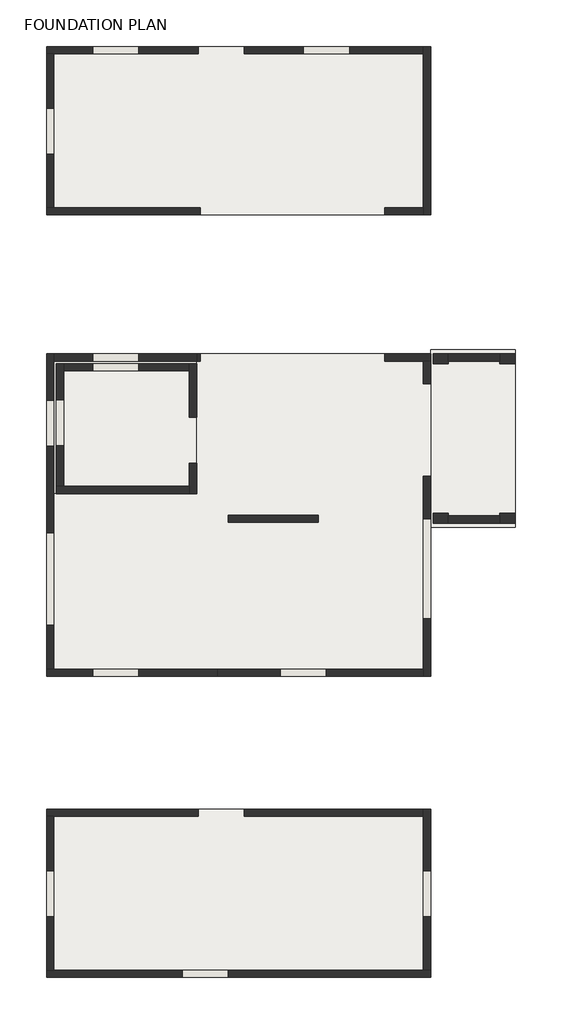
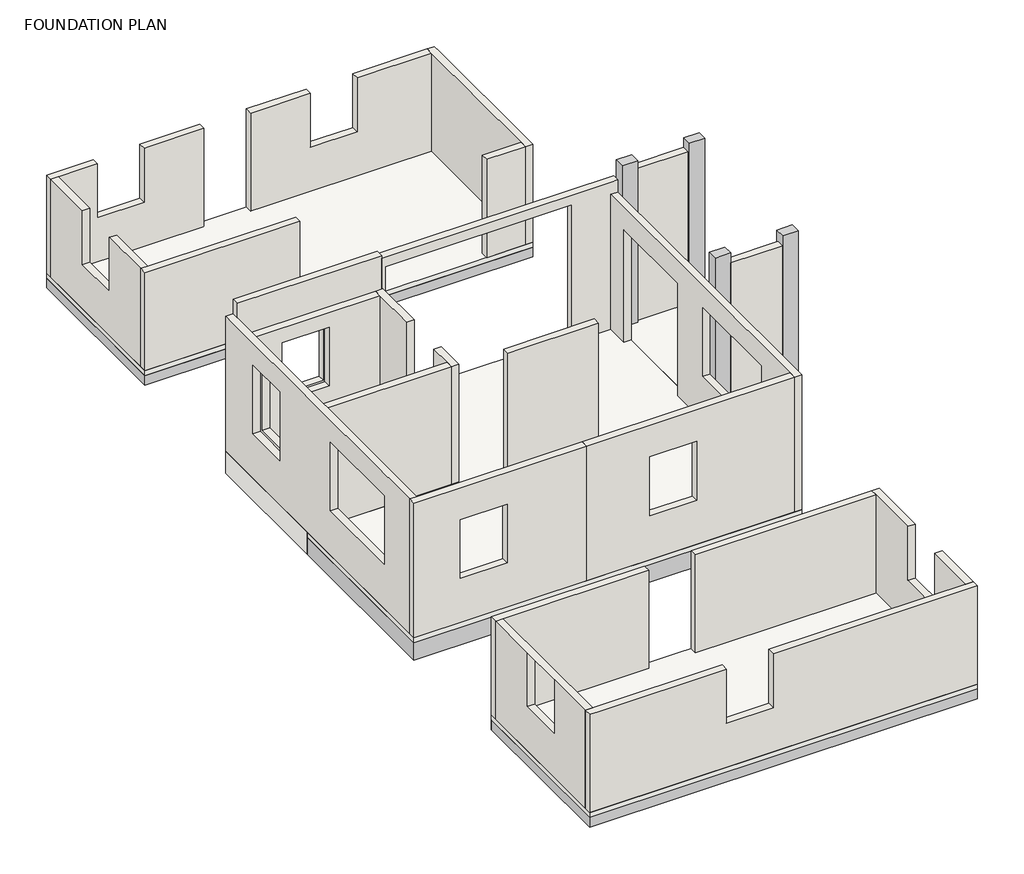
# One storey: 23 walls, 5 slabs, 4 columns, 4 proxies, 1 footing.
"""IFC4 building model written with IfcOpenShell, lengths in millimetres."""

from ifc_helpers import new_model, si_unit, frame, origin, origin_with_axes, place, context, project, spatial, polyline, outline, extrude, faceted_brep, element, save

model = new_model("IFC4")

# Units and contexts
model_context = context("Model", 3, world=origin())
ifc_project = project(units=[si_unit("LENGTHUNIT", "METRE", prefix="MILLI")], contexts=[model_context])

# Site, building, storey
site = spatial("IfcSite", under=ifc_project)
building = spatial("IfcBuilding", under=site)
storey = spatial("IfcBuildingStorey", under=building, Name="FOUNDATION PLAN", Elevation=0.0)

# Proxies
placement = place(None, origin())
element("IfcBuildingElementProxy", 1, Name="Thickened 24\" x 12\"", ObjectType="Thickened 24\" x 12\"", at=placement, inside=storey, context=model_context, shape_type="Brep", body=[
    faceted_brep([(7305.675, -2924.2155437, -304.8), (7610.475, -2619.4155437, -304.8), (7610.475, -2619.4155437, -101.6), (7102.475, -3127.4155437, -101.6), (9.525, -2619.4155437, -304.8), (314.325, -2924.2155437, -304.8), (517.525, -3127.4155437, -101.6), (9.525, -2619.4155437, -101.6)], [[[0, 1, 2, 3]], [[4, 5, 6, 7]], [[1, 4, 7, 2]], [[5, 0, 3, 6]], [[1, 0, 5, 4]], [[3, 2, 7, 6]]]),
])
element("IfcBuildingElementProxy", 2, Name="Thickened 24\" x 12\"", ObjectType="Thickened 24\" x 12\"", at=placement, inside=storey, context=model_context, shape_type="Brep", body=[
    faceted_brep([(314.325, -2924.2155437, -304.8), (9.525, -2619.4155437, -304.8), (9.525, -2619.4155437, -101.6), (517.525, -3127.4155437, -101.6), (9.525, -5953.1655549, -304.8), (9.525, -5953.1655549, -101.6), (314.325, -5648.3655549, -304.8), (517.525, -5445.1655549, -101.6), (7610.475, -5953.1655549, -101.6), (7610.475, -2619.4155437, -101.6), (7102.475, -3127.4155437, -101.6), (7102.475, -5445.1655549, -101.6), (7610.475, -5953.1655549, -304.8), (7305.675, -5648.3655549, -304.8), (7610.475, -2619.4155437, -304.8), (7305.675, -2924.2155437, -304.8)], [[[0, 1, 2, 3]], [[1, 4, 5, 2]], [[6, 0, 3, 7]], [[1, 0, 6, 4]], [[3, 2, 5, 8, 9, 10, 11, 7]], [[4, 12, 8, 5]], [[13, 6, 7, 11]], [[4, 6, 13, 12]], [[14, 15, 10, 9]], [[12, 14, 9, 8]], [[15, 13, 11, 10]], [[12, 13, 15, 14]]]),
    faceted_brep([(7610.475, 12474.1132667, -304.8), (9.525, 12474.1132667, -304.8), (9.525, 12474.1132667, -101.6), (7610.475, 12474.1132667, -101.6), (314.325, 12169.3132667, -304.8), (7305.675, 12169.3132667, -304.8), (7102.475, 11966.1132667, -101.6), (517.525, 11966.1132667, -101.6), (9.525, 9140.3632667, -101.6), (7610.475, 9140.3632667, -101.6), (7102.475, 9648.3632667, -101.6), (517.525, 9648.3632667, -101.6), (9.525, 9140.3632667, -304.8), (7610.475, 9140.3632667, -304.8), (7305.675, 9445.1632667, -304.8), (314.325, 9445.1632667, -304.8)], [[[0, 1, 2, 3]], [[4, 5, 6, 7]], [[0, 5, 4, 1]], [[3, 2, 8, 9], [7, 6, 10, 11]], [[12, 13, 9, 8]], [[14, 15, 11, 10]], [[12, 15, 14, 13]], [[13, 0, 3, 9]], [[5, 14, 10, 6]], [[5, 0, 13, 14]], [[1, 12, 8, 2]], [[15, 4, 7, 11]], [[15, 12, 1, 4]]]),
])
element("IfcBuildingElementProxy", 3, Name="Thickened 36\" x 18\"", ObjectType="Thickened 36\" x 18\"", at=placement, inside=storey, context=model_context, shape_type="Brep", body=[
    faceted_brep([(2978.15, 6391.2749888, -457.2), (3435.35, 5934.0749888, -457.2), (3790.95, 5578.4749888, -101.6), (2978.15, 6391.2749888, -101.6), (7610.475, 6391.2749888, -457.2), (7610.475, 6391.2749888, -101.6), (7153.275, 5934.0749888, -457.2), (6797.675, 5578.4749888, -101.6), (6797.675, 3048.0, -101.6), (6797.675, 822.325, -101.6), (822.325, 822.325, -101.6), (822.325, 2813.05, -101.6), (9.525, 3625.85, -101.6), (9.525, 9.525, -101.6), (7610.475, 9.525, -101.6), (7610.475, 3048.0, -101.6), (466.725, 3168.65, -457.2), (9.525, 3625.85, -457.2), (9.525, 9.525, -457.2), (466.725, 466.725, -457.2), (7610.475, 9.525, -457.2), (7153.275, 466.725, -457.2), (7610.475, 3048.0, -457.2), (7153.275, 3048.0, -457.2)], [[[0, 1, 2, 3]], [[4, 0, 3, 5]], [[1, 6, 7, 2]], [[4, 6, 1, 0]], [[3, 2, 7, 8, 9, 10, 11, 12, 13, 14, 15, 5]], [[16, 17, 12, 11]], [[17, 18, 13, 12]], [[19, 16, 11, 10]], [[17, 16, 19, 18]], [[18, 20, 14, 13]], [[21, 19, 10, 9]], [[18, 19, 21, 20]], [[20, 22, 15, 14]], [[23, 21, 9, 8]], [[20, 21, 23, 22]], [[22, 4, 5, 15]], [[6, 23, 8, 7]], [[6, 4, 22, 23]]]),
])
element("IfcBuildingElementProxy", 4, Name="Thickened 36\" x 18\"", ObjectType="Thickened 36\" x 18\"", at=placement, inside=storey, context=model_context, shape_type="Brep", body=[
    faceted_brep([(9.525, 3625.85, -457.2), (466.725, 3168.65, -457.2), (822.325, 2813.05, -101.6), (9.525, 3625.85, -101.6), (2978.15, 3625.85, -457.2), (2978.15, 3625.85, -101.6), (3435.35, 3168.65, -457.2), (3790.95, 2813.05, -101.6), (3790.95, 5578.4749888, -101.6), (2978.15, 6391.2749888, -101.6), (3435.35, 5934.0749888, -457.2), (2978.15, 6391.2749888, -457.2)], [[[0, 1, 2, 3]], [[4, 0, 3, 5]], [[1, 6, 7, 2]], [[4, 6, 1, 0]], [[3, 2, 7, 8, 9, 5]], [[10, 11, 9, 8]], [[11, 4, 5, 9]], [[6, 10, 8, 7]], [[6, 4, 11, 10]]]),
])

# Columns
element("IfcColumn", 5, ObjectType="Concrete-Rectangular-Column : 8 x 12", at=placement, inside=storey, context=model_context, shape_type="Brep", body=[
    faceted_brep([(7661.275, 6391.275, 3352.8), (7661.275, 6197.6, 3352.8), (7966.075, 6197.6, 3352.8), (7966.075, 6223.0, 3352.8), (7966.075, 6365.875, 3352.8), (7966.075, 6391.275, 3352.8), (7661.275, 6391.275, 0.0), (7966.075, 6391.275, 0.0), (7966.075, 6248.4, 0.0), (7966.075, 6197.6, 0.0), (7661.275, 6197.6, 0.0), (7966.075, 6391.275, 3149.6)], [[[0, 1, 2, 3, 4, 5]], [[6, 7, 8, 9, 10]], [[1, 0, 6, 10]], [[2, 1, 10, 9]], [[5, 4, 3, 2, 9, 8, 7, 11]], [[0, 5, 11, 7, 6]]]),
])
element("IfcColumn", 6, ObjectType="Concrete-Rectangular-Column : 8 x 12", at=placement, inside=storey, context=model_context, shape_type="Brep", body=[
    faceted_brep([(8982.075, 6391.275, 3352.8), (8982.075, 6365.875, 3352.8), (8982.075, 6223.0, 3352.8), (8982.075, 6197.6, 3352.8), (9286.875, 6197.6, 3352.8), (9286.875, 6391.275, 3352.8), (8982.075, 6391.275, 0.0), (9286.875, 6391.275, 0.0), (9286.875, 6197.6, 0.0), (8982.075, 6197.6, 0.0), (8982.075, 6248.4, 0.0), (8982.075, 6391.275, 3149.6)], [[[0, 1, 2, 3, 4, 5]], [[6, 7, 8, 9, 10]], [[3, 2, 1, 0, 11, 6, 10, 9]], [[4, 3, 9, 8]], [[5, 4, 8, 7]], [[0, 5, 7, 6, 11]]]),
])
element("IfcColumn", 7, ObjectType="Concrete-Rectangular-Column : 8 x 12", at=placement, inside=storey, context=model_context, shape_type="Brep", body=[
    faceted_brep([(7661.275, 3232.15, 3352.8), (7661.275, 3038.475, 3352.8), (7966.075, 3038.475, 3352.8), (7966.075, 3232.15, 3352.8), (7661.275, 3232.15, 0.0), (7966.075, 3232.15, 0.0), (7966.075, 3181.35, 0.0), (7966.075, 3038.475, 0.0), (7661.275, 3038.475, 0.0), (7966.075, 3038.475, 3149.6)], [[[0, 1, 2, 3]], [[4, 5, 6, 7, 8]], [[1, 0, 4, 8]], [[2, 1, 8, 7, 9]], [[3, 2, 9, 7, 6, 5]], [[0, 3, 5, 4]]]),
])
element("IfcColumn", 8, ObjectType="Concrete-Rectangular-Column : 8 x 12", at=placement, inside=storey, context=model_context, shape_type="Brep", body=[
    faceted_brep([(8982.075, 3232.15, 3352.8), (8982.075, 3038.475, 3352.8), (9286.875, 3038.475, 3352.8), (9286.875, 3232.15, 3352.8), (8982.075, 3232.15, 0.0), (9286.875, 3232.15, 0.0), (9286.875, 3038.475, 0.0), (8982.075, 3038.475, 0.0), (8982.075, 3181.35, 0.0), (8982.075, 3038.475, 3149.6)], [[[0, 1, 2, 3]], [[4, 5, 6, 7, 8]], [[1, 0, 4, 8, 7, 9]], [[2, 1, 9, 7, 6]], [[3, 2, 6, 5]], [[0, 3, 5, 4]]]),
])

# Footing
element("IfcFooting", 9, ObjectType="Bearing Footing - 36\" x 18\"", at=placement, inside=storey, context=model_context, shape_type="SweptSolid", body=[
    extrude(outline(polyline([(3302.0, 2667.0), (3302.0, 3581.4), (5689.6, 3581.4), (5689.6, 2667.0), (3302.0, 2667.0)])), frame((0.0, 0.0, -457.2), z_axis=(0.0, 0.0, 1.0), x_axis=(1.0, 0.0, 0.0)), (0.0, 0.0, 1.0), 457.2),
])

# Slabs
element("IfcSlab", 10, ObjectType="18\" Foundation Slab", at=placement, inside=storey, context=model_context, shape_type="SweptSolid", body=[
    extrude(outline(polyline([(9286.875, 6467.475), (9286.875, 2962.275), (7610.475, 2962.275), (7610.475, 6467.475), (9286.875, 6467.475)])), frame((0.0, 0.0, -457.2), z_axis=(0.0, 0.0, 1.0), x_axis=(1.0, 0.0, 0.0)), (0.0, 0.0, 1.0), 457.2),
])
element("IfcSlab", 11, ObjectType="18\" Foundation Slab", at=placement, inside=storey, context=model_context, shape_type="SweptSolid", body=[
    extrude(outline(polyline([(2978.15, 6391.2749888), (2978.15, 3625.85), (9.525, 3625.85), (9.525, 6391.2749888), (2978.15, 6391.2749888)])), frame((0.0, 0.0, -457.2), z_axis=(0.0, 0.0, 1.0), x_axis=(1.0, 0.0, 0.0)), (0.0, 0.0, 1.0), 457.2),
])
element("IfcSlab", 12, ObjectType="4\" Concrete", at=placement, inside=storey, context=model_context, shape_type="SweptSolid", body=[
    extrude(outline(polyline([(7610.475, 6391.2749888), (7610.475, 3048.0), (7610.475, 9.525), (9.525, 9.525), (9.525, 3625.85), (2978.15, 3625.85), (2978.15, 6391.2749888), (7610.475, 6391.2749888)])), frame((0.0, 0.0, -101.6), z_axis=(0.0, 0.0, 1.0), x_axis=(1.0, 0.0, 0.0)), (0.0, 0.0, 1.0), 101.6),
])
element("IfcSlab", 13, ObjectType="4\" Concrete", at=placement, inside=storey, context=model_context, shape_type="SweptSolid", body=[
    extrude(outline(polyline([(7610.475, -2619.4155437), (7610.475, -5953.1655549), (9.525, -5953.1655549), (9.525, -2619.4155437), (7610.475, -2619.4155437)])), frame((0.0, 0.0, -101.6), z_axis=(0.0, 0.0, 1.0), x_axis=(1.0, 0.0, 0.0)), (0.0, 0.0, 1.0), 101.6),
])
element("IfcSlab", 14, ObjectType="4\" Concrete", at=placement, inside=storey, context=model_context, shape_type="SweptSolid", body=[
    extrude(outline(polyline([(7610.475, 12474.1132667), (7610.475, 9140.3632667), (9.525, 9140.3632667), (9.525, 12474.1132667), (7610.475, 12474.1132667)])), frame((0.0, 0.0, -101.6), z_axis=(0.0, 0.0, 1.0), x_axis=(1.0, 0.0, 0.0)), (0.0, 0.0, 1.0), 101.6),
])

# Walls
element("IfcWall", 15, ObjectType="Generic - 6\" Masonry", at=placement, inside=storey, context=model_context, shape_type="Brep", body=[
    faceted_brep([(7467.6, 9.525, 0.0), (7467.6, 9.525, 2794.0), (7467.6, 152.4, 2794.0), (7467.6, 3052.7625, 2794.0), (7467.6, 3195.6375, 2794.0), (7467.6, 6248.4, 2794.0), (7467.6, 6248.4, 0.0), (7467.6, 5800.8868796, 0.0), (7467.6, 5800.8868796, 2336.91527), (7467.6, 3971.9337441, 2336.91527), (7467.6, 3971.9337441, 0.0), (7467.6, 152.4, 0.0), (7467.6, 3128.9625, 2336.8), (7467.6, 1143.0, 2336.8), (7467.6, 1143.0, 914.4), (7467.6, 3128.9625, 914.4), (7610.475, 9.525, 2794.0), (7610.475, 9.525, 0.0), (7610.475, 3971.9337441, 0.0), (7610.475, 3971.9337441, 2336.91527), (7610.475, 5800.8868796, 2336.91527), (7610.475, 5800.8868796, 0.0), (7610.475, 6248.4, 0.0), (7610.475, 6248.4, 2794.0), (7610.475, 3195.6375, 2794.0), (7610.475, 3052.7625, 2794.0), (7610.475, 1143.0, 2336.8), (7610.475, 3128.9625, 2336.8), (7610.475, 3128.9625, 914.4), (7610.475, 1143.0, 914.4)], [[[0, 1, 2, 3, 4, 5, 6, 7, 8, 9, 10, 11], [12, 13, 14, 15]], [[16, 17, 18, 19, 20, 21, 22, 23, 24, 25], [26, 27, 28, 29]], [[1, 0, 17, 16]], [[8, 20, 19, 9]], [[20, 8, 7, 21]], [[9, 19, 18, 10]], [[12, 27, 26, 13]], [[14, 29, 28, 15]], [[27, 12, 15, 28]], [[13, 26, 29, 14]], [[6, 5, 23, 22]], [[7, 6, 22, 21]], [[0, 11, 10, 18, 17]], [[5, 4, 3, 2, 1, 16, 25, 24, 23]]]),
])
element("IfcWall", 16, ObjectType="Generic - 6\" Masonry", at=placement, inside=storey, context=model_context, shape_type="Brep", body=[
    faceted_brep([(3387.725, 152.4, 0.0), (152.4, 152.4, 0.0), (9.525, 152.4, 0.0), (9.525, 152.4, 2794.0), (152.4, 152.4, 2794.0), (3387.725, 152.4, 2794.0), (1838.325, 152.4, 914.4), (1838.325, 152.4, 2133.6), (923.925, 152.4, 2133.6), (923.925, 152.4, 914.4), (3387.725, 9.525, 0.0), (3387.725, 9.525, 2794.0), (9.525, 9.525, 2794.0), (9.525, 9.525, 0.0), (1838.325, 9.525, 914.4), (923.925, 9.525, 914.4), (923.925, 9.525, 2133.6), (1838.325, 9.525, 2133.6)], [[[0, 1, 2, 3, 4, 5], [6, 7, 8, 9]], [[10, 11, 12, 13], [14, 15, 16, 17]], [[3, 2, 13, 12]], [[2, 1, 0, 10, 13]], [[5, 4, 3, 12, 11]], [[0, 5, 11, 10]], [[7, 6, 14, 17]], [[8, 7, 17, 16]], [[9, 8, 16, 15]], [[6, 9, 15, 14]]]),
])
element("IfcWall", 17, ObjectType="Generic - 6\" Masonry", at=placement, inside=storey, context=model_context, shape_type="Brep", body=[
    faceted_brep([(7610.475, 6248.4, 0.0), (7610.475, 6248.4, 2794.0), (7610.475, 6248.4, 3048.0), (7467.6, 6248.4, 3048.0), (2978.15, 6248.4, 3048.0), (2978.15, 6248.4, 0.0), (3048.0, 6248.4, 0.0), (3048.0, 6248.4, 2844.8), (6705.6, 6248.4, 2844.8), (6705.6, 6248.4, 0.0), (7467.6, 6248.4, 0.0), (7610.475, 6391.275, 3048.0), (7610.475, 6391.275, 0.0), (6705.6, 6391.275, 0.0), (6705.6, 6391.275, 2844.8), (3048.0, 6391.275, 2844.8), (3048.0, 6391.275, 0.0), (2978.15, 6391.275, 0.0), (2978.15, 6391.275, 3048.0)], [[[0, 1, 2, 3, 4, 5, 6, 7, 8, 9, 10]], [[11, 12, 13, 14, 15, 16, 17, 18]], [[5, 17, 16, 6]], [[12, 0, 10, 9, 13]], [[4, 3, 2, 11, 18]], [[5, 4, 18, 17]], [[7, 15, 14, 8]], [[15, 7, 6, 16]], [[8, 14, 13, 9]], [[2, 1, 0, 12, 11]]]),
])
element("IfcWall", 18, ObjectType="Generic - 6\" Masonry", at=placement, inside=storey, context=model_context, shape_type="SweptSolid", body=[
    extrude(outline(polyline([(0.0, 7467.6), (2794.0, 7467.6), (2794.0, 3387.725), (0.0, 3387.725), (0.0, 7467.6)]), holes=[polyline([(914.4, 4635.5), (2133.6, 4635.5), (2133.6, 5549.9), (914.4, 5549.9), (914.4, 4635.5)])]), frame((0.0, 9.525, 0.0), z_axis=(0.0, 1.0, 0.0), x_axis=(0.0, 0.0, 1.0)), (0.0, 0.0, 1.0), 142.875),
])
element("IfcWall", 19, ObjectType="Generic - 6\" Masonry", at=placement, inside=storey, context=model_context, shape_type="SweptSolid", body=[
    extrude(outline(polyline([(5384.8, 3052.7625), (3606.8, 3052.7625), (3606.8, 3195.6375), (5384.8, 3195.6375), (5384.8, 3052.7625)])), origin_with_axes(), (0.0, 0.0, 1.0), 2794.0),
])
element("IfcWall", 20, ObjectType="Generic - 6\" Masonry", at=placement, inside=storey, context=model_context, shape_type="Brep", body=[
    faceted_brep([(3009.9, -2619.4155437, 0.0), (9.525, -2619.4155437, 0.0), (9.525, -2619.4155437, 2032.0), (152.4, -2619.4155437, 2032.0), (3009.9, -2619.4155437, 2032.0), (3009.9, -2762.2905437, 0.0), (3009.9, -2762.2905437, 2032.0), (152.4, -2762.2905437, 2032.0), (9.525, -2762.2905437, 2032.0), (9.525, -2762.2905437, 2031.0750123), (9.525, -2762.2905437, 0.0), (152.4, -2762.2905437, 0.0)], [[[0, 1, 2, 3, 4]], [[5, 6, 7, 8, 9, 10, 11]], [[1, 0, 5, 11, 10]], [[4, 3, 2, 8, 7, 6]], [[0, 4, 6, 5]], [[2, 1, 10, 9, 8]]]),
])
element("IfcWall", 21, ObjectType="Generic - 6\" Masonry", at=placement, inside=storey, context=model_context, shape_type="Brep", body=[
    faceted_brep([(9.525, -5953.1655549, 0.0), (7610.475, -5953.1655549, 0.0), (7610.475, -5953.1655549, 2031.5384896), (3606.8, -5953.1655549, 2031.5384896), (3606.8, -5953.1655549, 914.4), (2692.4, -5953.1655549, 914.4), (2692.4, -5953.1655549, 2031.5384896), (152.4, -5953.1655549, 2031.5384896), (9.525, -5953.1655549, 2031.5384896), (7610.475, -5810.2905549, 0.0), (7467.6, -5810.2905549, 0.0), (152.4, -5810.2905549, 0.0), (9.525, -5810.2905549, 0.0), (9.525, -5810.2905549, 2031.0750123), (9.525, -5810.2905549, 2031.5384896), (152.4, -5810.2905549, 2031.5384896), (2692.4, -5810.2905549, 2031.5384896), (2692.4, -5810.2905549, 914.4), (3606.8, -5810.2905549, 914.4), (3606.8, -5810.2905549, 2031.5384896), (7610.475, -5810.2905549, 2031.5384896)], [[[0, 1, 2, 3, 4, 5, 6, 7, 8]], [[9, 10, 11, 12, 13, 14, 15, 16, 17, 18, 19, 20]], [[1, 0, 12, 11, 10, 9]], [[2, 20, 19, 3]], [[14, 8, 7, 6, 16, 15]], [[2, 1, 9, 20]], [[4, 18, 17, 5]], [[5, 17, 16, 6]], [[18, 4, 3, 19]], [[0, 8, 14, 13, 12]]]),
])
element("IfcWall", 22, ObjectType="Generic - 6\" Masonry", at=placement, inside=storey, context=model_context, shape_type="Brep", body=[
    faceted_brep([(7610.475, -5810.2905549, 0.0), (7610.475, -2619.4155437, 0.0), (7610.475, -2619.4155437, 2032.0), (7610.475, -3838.6155549, 2032.0), (7610.475, -3838.6155549, 914.4), (7610.475, -4753.0155549, 914.4), (7610.475, -4753.0155549, 2032.0), (7610.475, -5810.2905549, 2032.0), (7610.475, -5810.2905549, 2031.5384896), (7467.6, -2619.4155437, 0.0), (7467.6, -2762.2905437, 0.0), (7467.6, -5810.2905549, 0.0), (7467.6, -5810.2905549, 2032.0), (7467.6, -4753.0155549, 2032.0), (7467.6, -4753.0155549, 914.4), (7467.6, -3838.6155549, 914.4), (7467.6, -3838.6155549, 2032.0), (7467.6, -2762.2905437, 2032.0), (7467.6, -2619.4155437, 2032.0)], [[[0, 1, 2, 3, 4, 5, 6, 7, 8]], [[9, 10, 11, 12, 13, 14, 15, 16, 17, 18]], [[1, 0, 11, 10, 9]], [[12, 7, 6, 13]], [[2, 18, 17, 16, 3]], [[0, 8, 7, 12, 11]], [[2, 1, 9, 18]], [[4, 15, 14, 5]], [[5, 14, 13, 6]], [[15, 4, 3, 16]]]),
])
element("IfcWall", 23, ObjectType="Generic - 6\" Masonry", at=placement, inside=storey, context=model_context, shape_type="SweptSolid", body=[
    extrude(outline(polyline([(3924.3, -2619.4155437), (7467.6, -2619.4155437), (7467.6, -2762.2905437), (3924.3, -2762.2905437), (3924.3, -2619.4155437)])), origin_with_axes(), (0.0, 0.0, 1.0), 2032.0),
])
element("IfcWall", 24, ObjectType="Generic - 6\" Masonry", at=placement, inside=storey, context=model_context, shape_type="Brep", body=[
    faceted_brep([(7467.6, 12474.1132667, 0.0), (7467.6, 12331.2382667, 0.0), (7467.6, 9283.2382667, 0.0), (7467.6, 9140.3632667, 0.0), (7467.6, 9140.3632667, 2032.0), (7467.6, 9283.2382667, 2032.0), (7467.6, 12331.2382667, 2032.0), (7467.6, 12474.1132667, 2032.0), (7610.475, 12474.1132667, 0.0), (7610.475, 12474.1132667, 2032.0), (7610.475, 12331.2382667, 2032.0), (7610.475, 9283.2382667, 2032.0), (7610.475, 9140.3632667, 2032.0), (7610.475, 9140.3632667, 0.0)], [[[0, 1, 2, 3, 4, 5, 6, 7]], [[8, 9, 10, 11, 12, 13]], [[3, 2, 1, 0, 8, 13]], [[7, 6, 5, 4, 12, 11, 10, 9]], [[0, 7, 9, 8]], [[4, 3, 13, 12]]]),
])
element("IfcWall", 25, ObjectType="Generic - 6\" Masonry", at=placement, inside=storey, context=model_context, shape_type="Brep", body=[
    faceted_brep([(7467.6, 12474.1132667, 2032.0), (7467.6, 12474.1132667, 0.0), (3924.3, 12474.1132667, 0.0), (3924.3, 12474.1132667, 2032.0), (5095.875, 12474.1132667, 2032.0), (5095.875, 12474.1132667, 914.4), (6010.275, 12474.1132667, 914.4), (6010.275, 12474.1132667, 2032.0), (7467.6, 12331.2382667, 0.0), (7467.6, 12331.2382667, 2032.0), (6010.275, 12331.2382667, 2032.0), (6010.275, 12331.2382667, 914.4), (5095.875, 12331.2382667, 914.4), (5095.875, 12331.2382667, 2032.0), (3924.3, 12331.2382667, 2032.0), (3924.3, 12331.2382667, 0.0)], [[[0, 1, 2, 3, 4, 5, 6, 7]], [[8, 9, 10, 11, 12, 13, 14, 15]], [[1, 0, 9, 8]], [[3, 2, 15, 14]], [[2, 1, 8, 15]], [[3, 14, 13, 4]], [[9, 0, 7, 10]], [[5, 12, 11, 6]], [[6, 11, 10, 7]], [[12, 5, 4, 13]]]),
    faceted_brep([(9.525, 12474.1132667, 0.0), (9.525, 12474.1132667, 2032.0), (923.925, 12474.1132667, 2032.0), (923.925, 12474.1132667, 914.4), (1838.325, 12474.1132667, 914.4), (1838.325, 12474.1132667, 2032.0), (3009.9, 12474.1132667, 2032.0), (3009.9, 12474.1132667, 0.0), (9.525, 12331.2382667, 2032.0), (9.525, 12331.2382667, 0.0), (152.4, 12331.2382667, 0.0), (3009.9, 12331.2382667, 0.0), (3009.9, 12331.2382667, 2032.0), (1838.325, 12331.2382667, 2032.0), (1838.325, 12331.2382667, 914.4), (923.925, 12331.2382667, 914.4), (923.925, 12331.2382667, 2032.0), (152.4, 12331.2382667, 2032.0)], [[[0, 1, 2, 3, 4, 5, 6, 7]], [[8, 9, 10, 11, 12, 13, 14, 15, 16, 17]], [[1, 0, 9, 8]], [[7, 6, 12, 11]], [[0, 7, 11, 10, 9]], [[6, 5, 13, 12]], [[5, 4, 14, 13]], [[3, 2, 16, 15]], [[4, 3, 15, 14]], [[2, 1, 8, 17, 16]]]),
])
element("IfcWall", 26, ObjectType="Generic - 6\" Masonry", at=placement, inside=storey, context=model_context, shape_type="Brep", body=[
    faceted_brep([(7467.6, 9283.2382667, 0.0), (6705.6, 9283.2382667, 0.0), (6705.6, 9283.2382667, 2032.0), (6705.6, 9283.2382667, 2032.4732556), (7467.6, 9283.2382667, 2032.4732556), (7467.6, 9283.2382667, 2032.0), (7467.6, 9140.3632667, 0.0), (7467.6, 9140.3632667, 2032.0), (7467.6, 9140.3632667, 2032.4732556), (6705.6, 9140.3632667, 2032.4732556), (6705.6, 9140.3632667, 2032.0), (6705.6, 9140.3632667, 0.0)], [[[0, 1, 2, 3, 4, 5]], [[6, 7, 8, 9, 10, 11]], [[1, 0, 6, 11]], [[3, 2, 1, 11, 10, 9]], [[4, 3, 9, 8]], [[0, 5, 4, 8, 7, 6]]]),
])
element("IfcWall", 27, ObjectType="Generic - 6\" Masonry", at=placement, inside=storey, context=model_context, shape_type="Brep", body=[
    faceted_brep([(9.525, 9140.3632667, 0.0), (3048.0, 9140.3632667, 0.0), (3048.0, 9140.3632667, 2032.0), (9.525, 9140.3632667, 2032.0), (9.525, 9283.2382667, 0.0), (9.525, 9283.2382667, 2032.0), (152.4, 9283.2382667, 2032.0), (3048.0, 9283.2382667, 2032.0), (3048.0, 9283.2382667, 0.0), (152.4, 9283.2382667, 0.0)], [[[0, 1, 2, 3]], [[4, 5, 6, 7, 8, 9]], [[1, 0, 4, 9, 8]], [[2, 1, 8, 7]], [[3, 2, 7, 6, 5]], [[0, 3, 5, 4]]]),
])
element("IfcWall", 28, ObjectType="Generic - 6\" Masonry", at=placement, inside=storey, context=model_context, shape_type="Brep", body=[
    faceted_brep([(152.4, 152.4, 0.0), (152.4, 6248.3999888, 0.0), (152.4, 6391.2749888, 0.0), (152.4, 6391.2749888, 2794.0), (152.4, 152.4, 2794.0), (152.4, 4562.4749888, 2336.7879629), (152.4, 5476.8749888, 2336.7879629), (152.4, 5476.8749888, 914.4), (152.4, 4562.4749888, 914.4), (152.4, 1016.0000536, 2336.7380994), (152.4, 2844.8000536, 2336.7380994), (152.4, 2844.8000536, 914.4), (152.4, 1016.0000536, 914.4), (9.525, 6391.2749888, 0.0), (9.525, 152.4, 0.0), (9.525, 152.4, 2794.0), (9.525, 3052.7625, 2794.0), (9.525, 3195.6375, 2794.0), (9.525, 6391.2749888, 2794.0), (9.525, 5476.8749888, 2336.7879629), (9.525, 4562.4749888, 2336.7879629), (9.525, 4562.4749888, 914.4), (9.525, 5476.8749888, 914.4), (9.525, 2844.8000536, 2336.7380994), (9.525, 1016.0000536, 2336.7380994), (9.525, 1016.0000536, 914.4), (9.525, 2844.8000536, 914.4)], [[[0, 1, 2, 3, 4], [5, 6, 7, 8], [9, 10, 11, 12]], [[13, 14, 15, 16, 17, 18], [19, 20, 21, 22], [23, 24, 25, 26]], [[2, 1, 0, 14, 13]], [[4, 3, 18, 17, 16, 15]], [[5, 20, 19, 6]], [[7, 22, 21, 8]], [[20, 5, 8, 21]], [[6, 19, 22, 7]], [[9, 24, 23, 10]], [[11, 26, 25, 12]], [[24, 9, 12, 25]], [[10, 23, 26, 11]], [[0, 4, 15, 14]], [[3, 2, 13, 18]]]),
])
element("IfcWall", 29, ObjectType="Generic - 6\" Masonry", at=placement, inside=storey, context=model_context, shape_type="SweptSolid", body=[
    extrude(outline(polyline([(12331.2382667, 0.0), (9283.2382667, 0.0), (9283.2382667, 2032.0), (10340.5133062, 2032.0), (10340.5133062, 914.4), (11254.9133062, 914.4), (11254.9133062, 2032.0), (12331.2382667, 2032.0), (12331.2382667, 0.0)])), frame((9.525, 0.0, 0.0), z_axis=(1.0, 0.0, 0.0), x_axis=(0.0, 1.0, 0.0)), (0.0, 0.0, 1.0), 142.875),
])
element("IfcWall", 30, ObjectType="Generic - 6\" Masonry", at=placement, inside=storey, context=model_context, shape_type="SweptSolid", body=[
    extrude(outline(polyline([(-2762.2905437, 0.0), (-5810.2905549, 0.0), (-5810.2905549, 2031.0750123), (-2762.2905437, 2031.0750123), (-2762.2905437, 0.0)]), holes=[polyline([(-3838.6155549, 2029.6460456), (-4753.0155549, 2029.6460456), (-4753.0155549, 914.4), (-3838.6155549, 914.4), (-3838.6155549, 2029.6460456)])]), frame((9.525, 0.0, 0.0), z_axis=(1.0, 0.0, 0.0), x_axis=(0.0, 1.0, 0.0)), (0.0, 0.0, 1.0), 142.875),
])
element("IfcWall", 31, ObjectType="Generic - 6\" Masonry", at=placement, inside=storey, context=model_context, shape_type="Brep", body=[
    faceted_brep([(2978.15, 6391.2749888, 0.0), (152.4, 6391.2749888, 0.0), (152.4, 6391.2749888, 2794.0), (152.4, 6391.2749888, 3098.8), (2978.15, 6391.2749888, 3098.8), (2978.15, 6391.2749888, 3048.0), (2978.15, 6391.2749888, 2794.0), (2978.15, 6391.2749888, 2438.4), (1838.325, 6391.2749888, 914.4), (1838.325, 6391.2749888, 2133.6), (923.925, 6391.2749888, 2133.6), (923.925, 6391.2749888, 914.4), (2978.15, 6248.3999888, 0.0), (2978.15, 6248.3999888, 2438.4), (2978.15, 6248.3999888, 2794.0), (2978.15, 6248.3999888, 3048.0), (2978.15, 6248.3999888, 3098.8), (152.4, 6248.3999888, 3098.8), (152.4, 6248.3999888, 0.0), (1838.325, 6248.3999888, 914.4), (923.925, 6248.3999888, 914.4), (923.925, 6248.3999888, 2133.6), (1838.325, 6248.3999888, 2133.6)], [[[0, 1, 2, 3, 4, 5, 6, 7], [8, 9, 10, 11]], [[12, 13, 14, 15, 16, 17, 18], [19, 20, 21, 22]], [[3, 2, 1, 18, 17]], [[1, 0, 12, 18]], [[4, 3, 17, 16]], [[0, 7, 6, 5, 4, 16, 15, 14, 13, 12]], [[9, 8, 19, 22]], [[10, 9, 22, 21]], [[11, 10, 21, 20]], [[8, 11, 20, 19]]]),
])
element("IfcWall", 32, ObjectType="Generic - 6\" Masonry Safe Room", at=placement, inside=storey, context=model_context, shape_type="Brep", body=[
    faceted_brep([(2835.275, 3625.85, 0.0), (2835.275, 3625.85, 2438.4), (2835.275, 3768.725, 2438.4), (2835.275, 4225.925, 2438.4), (2835.275, 4225.925, 0.0), (2835.275, 3768.725, 0.0), (2978.15, 3625.85, 2438.4), (2978.15, 3625.85, 0.0), (2978.15, 4225.925, 0.0), (2978.15, 4225.925, 2438.4)], [[[0, 1, 2, 3, 4, 5]], [[6, 7, 8, 9]], [[7, 0, 5, 4, 8]], [[1, 0, 7, 6]], [[4, 3, 9, 8]], [[1, 6, 9, 3, 2]]]),
    faceted_brep([(2835.275, 6197.6, 2438.4), (2835.275, 6197.6, 0.0), (2835.275, 6054.725, 0.0), (2835.275, 5140.325, 0.0), (2835.275, 5140.325, 2438.4), (2835.275, 6054.725, 2438.4), (2978.15, 6197.6, 0.0), (2978.15, 6197.6, 2438.4), (2978.15, 5140.325, 2438.4), (2978.15, 5140.325, 0.0)], [[[0, 1, 2, 3, 4, 5]], [[6, 7, 8, 9]], [[1, 6, 9, 3, 2]], [[1, 0, 7, 6]], [[4, 3, 9, 8]], [[7, 0, 5, 4, 8]]]),
])
element("IfcWall", 33, ObjectType="Generic - 6\" Masonry Safe Room", at=placement, inside=storey, context=model_context, shape_type="Brep", body=[
    faceted_brep([(2835.275, 3768.725, 0.0), (346.075, 3768.725, 0.0), (203.2, 3768.725, 0.0), (203.2, 3768.725, 2438.4), (346.075, 3768.725, 2438.4), (2835.275, 3768.725, 2438.4), (2835.275, 3625.85, 0.0), (2835.275, 3625.85, 2438.4), (203.2, 3625.85, 2438.4), (203.2, 3625.85, 0.0)], [[[0, 1, 2, 3, 4, 5]], [[6, 7, 8, 9]], [[2, 1, 0, 6, 9]], [[0, 5, 7, 6]], [[3, 2, 9, 8]], [[5, 4, 3, 8, 7]]]),
])
element("IfcWall", 34, ObjectType="Generic - 6\" Masonry Safe Room", at=placement, inside=storey, context=model_context, shape_type="Brep", body=[
    faceted_brep([(346.075, 3768.725, 0.0), (346.075, 6054.725, 0.0), (346.075, 6197.6, 0.0), (346.075, 6197.6, 2438.4), (346.075, 6054.725, 2438.4), (346.075, 3768.725, 2438.4), (346.075, 4571.9999888, 2135.6092442), (346.075, 5486.3999888, 2135.6092442), (346.075, 5486.3999888, 2133.6), (346.075, 5486.3999888, 914.4), (346.075, 4571.9999888, 914.4), (346.075, 4571.9999888, 2133.6), (203.2, 6197.6, 0.0), (203.2, 3768.725, 0.0), (203.2, 3768.725, 2438.4), (203.2, 6197.6, 2438.4), (203.2, 5486.3999888, 2135.6092442), (203.2, 4571.9999888, 2135.6092442), (203.2, 4571.9999888, 2133.6), (203.2, 4571.9999888, 914.4), (203.2, 5486.3999888, 914.4), (203.2, 5486.3999888, 2133.6)], [[[0, 1, 2, 3, 4, 5], [6, 7, 8, 9, 10, 11]], [[12, 13, 14, 15], [16, 17, 18, 19, 20, 21]], [[2, 1, 0, 13, 12]], [[0, 5, 14, 13]], [[3, 2, 12, 15]], [[6, 17, 16, 7]], [[9, 20, 19, 10]], [[17, 6, 11, 10, 19, 18]], [[7, 16, 21, 20, 9, 8]], [[5, 4, 3, 15, 14]]]),
])
element("IfcWall", 35, ObjectType="Generic - 6\" Masonry Safe Room", at=placement, inside=storey, context=model_context, shape_type="SweptSolid", body=[
    extrude(outline(polyline([(0.0, 346.075), (0.0, 2835.275), (2438.4, 2835.275), (2438.4, 346.075), (0.0, 346.075)]), holes=[polyline([(914.4, 923.925), (2133.6, 923.925), (2133.6, 1838.325), (914.4, 1838.325), (914.4, 923.925)])]), frame((0.0, 6054.725, 0.0), z_axis=(0.0, 1.0, 0.0), x_axis=(0.0, 0.0, 1.0)), (0.0, 0.0, 1.0), 142.875),
])
element("IfcWall", 36, ObjectType="Generic - Open Lattice", at=placement, inside=storey, context=model_context, shape_type="Brep", body=[
    faceted_brep([(7966.075, 6248.4, 0.0), (8982.075, 6248.4, 0.0), (8982.075, 6248.4, 3149.6), (7966.075, 6248.4, 3149.6), (7966.075, 6391.275, 0.0), (7966.075, 6391.275, 3149.6), (8982.075, 6391.275, 3149.6), (8982.075, 6391.275, 0.0), (8982.075, 6365.875, 3149.6), (7966.075, 6365.875, 3149.6)], [[[0, 1, 2, 3]], [[4, 5, 6, 7]], [[1, 0, 4, 7]], [[2, 1, 7, 6, 8]], [[3, 2, 8, 6, 5, 9]], [[0, 3, 9, 5, 4]]]),
])
element("IfcWall", 37, ObjectType="Generic - Open Lattice", at=placement, inside=storey, context=model_context, shape_type="Brep", body=[
    faceted_brep([(7966.075, 3038.475, 0.0), (8982.075, 3038.475, 0.0), (8982.075, 3038.475, 3149.6), (7966.075, 3038.475, 3149.6), (7966.075, 3181.35, 0.0), (7966.075, 3181.35, 3149.6), (8982.075, 3181.35, 3149.6), (8982.075, 3181.35, 0.0), (8982.075, 3063.875, 3149.6), (7966.075, 3063.875, 3149.6)], [[[0, 1, 2, 3]], [[4, 5, 6, 7]], [[1, 0, 4, 7]], [[2, 1, 7, 6, 8]], [[3, 2, 8, 6, 5, 9]], [[0, 3, 9, 5, 4]]]),
])

save(model, "model.ifc")
